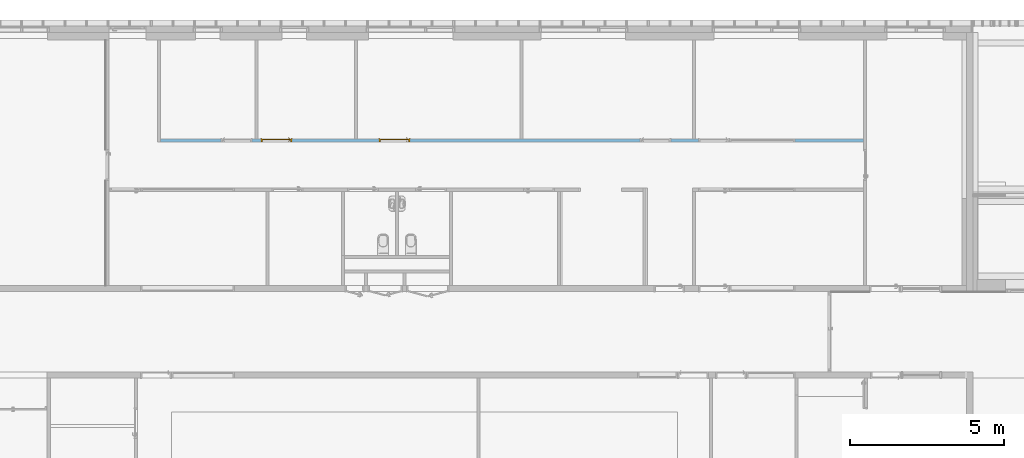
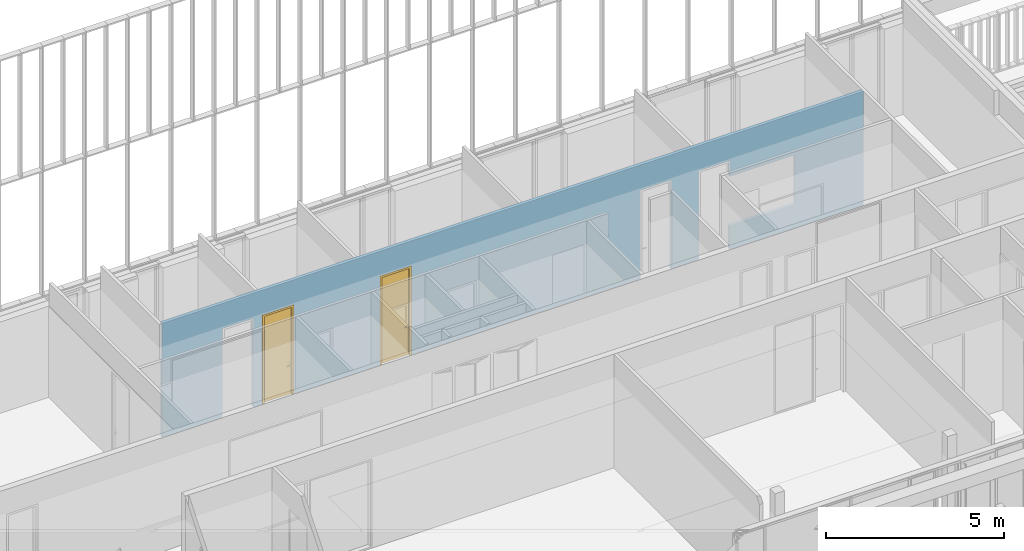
# One storey, part 153 of 240: 2 doors, 6 openings, plus 1 element that does not belong to this part.
"""IFC2X3 building model written with IfcOpenShell, lengths in centimetres."""

from ifc_helpers import new_model, entity, si_unit, converted_unit, derived_unit, direction, frame, frame_2d, origin, place, context, subcontext, project, spatial, polyline, rectangle, extrude, clip, bounded_halfspace, faceted_brep, source, transform, mapped, material, material_list, layer, layer_set, layer_usage, type_object, type_shapes, element, fill, save


model = new_model("IFC2X3")

# Units and contexts
model_context = context("Model", 3, precision=0.001, world=origin(), true_north=direction((6.12303176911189e-17, 1.0)))
body_context = subcontext(model_context, "Body", "Model", "MODEL_VIEW")
ifc_project = project(units=[si_unit("LENGTHUNIT", "METRE", prefix="CENTI"), si_unit("AREAUNIT", "SQUARE_METRE"), si_unit("VOLUMEUNIT", "CUBIC_METRE"), converted_unit("PLANEANGLEUNIT", "DEGREE", entity("IfcRatioMeasure", 0.0174532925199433), si_unit("PLANEANGLEUNIT", "RADIAN"), dimensions=[0, 0, 0, 0, 0, 0, 0]), si_unit("MASSUNIT", "GRAM", prefix="KILO"), derived_unit("MASSDENSITYUNIT", [(si_unit("MASSUNIT", "GRAM", prefix="KILO"), 1), (si_unit("LENGTHUNIT", "METRE"), -3)]), si_unit("TIMEUNIT", "SECOND"), si_unit("FREQUENCYUNIT", "HERTZ"), si_unit("THERMODYNAMICTEMPERATUREUNIT", "DEGREE_CELSIUS"), derived_unit("THERMALTRANSMITTANCEUNIT", [(si_unit("MASSUNIT", "GRAM", prefix="KILO"), 1), (si_unit("THERMODYNAMICTEMPERATUREUNIT", "KELVIN"), -1), (si_unit("TIMEUNIT", "SECOND"), -3)]), derived_unit("VOLUMETRICFLOWRATEUNIT", [(si_unit("LENGTHUNIT", "METRE"), 3), (si_unit("TIMEUNIT", "SECOND"), -1)]), si_unit("ELECTRICCURRENTUNIT", "AMPERE"), si_unit("ELECTRICVOLTAGEUNIT", "VOLT"), si_unit("POWERUNIT", "WATT"), si_unit("FORCEUNIT", "NEWTON", prefix="KILO"), si_unit("ILLUMINANCEUNIT", "LUX"), si_unit("LUMINOUSFLUXUNIT", "LUMEN"), si_unit("LUMINOUSINTENSITYUNIT", "CANDELA"), derived_unit("USERDEFINED", [(si_unit("MASSUNIT", "GRAM", prefix="KILO"), -1), (si_unit("LENGTHUNIT", "METRE"), -2), (si_unit("TIMEUNIT", "SECOND"), 3), (si_unit("LUMINOUSFLUXUNIT", "LUMEN"), 1)]), derived_unit("LINEARVELOCITYUNIT", [(si_unit("LENGTHUNIT", "METRE"), 1), (si_unit("TIMEUNIT", "SECOND"), -1)]), si_unit("PRESSUREUNIT", "PASCAL"), derived_unit("USERDEFINED", [(si_unit("LENGTHUNIT", "METRE"), -2), (si_unit("MASSUNIT", "GRAM", prefix="KILO"), 1), (si_unit("TIMEUNIT", "SECOND"), -2)])], contexts=[model_context])

# Site, building, storey
site_placement = place(None, frame((-2781.94577612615, 7442.24238424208, 0.0)))
site = spatial("IfcSite", under=ifc_project, at=site_placement, Name="Default", CompositionType="ELEMENT")
building_placement = place(site_placement, origin())
building = spatial("IfcBuilding", under=site, at=building_placement, CompositionType="ELEMENT")
storey_placement = place(building_placement, origin())
storey = spatial("IfcBuildingStorey", under=building, at=storey_placement, Name="N00 - COO", CompositionType="ELEMENT", Elevation=0.0)

# Wall, openings, doors
ifc_material_1 = material(Name="01 - Enduit/Plâtre")
ifc_layer_1 = layer(ifc_material_1, 1.3)
ifc_material_2 = material(Name="00 - Isolant")
ifc_layer_2 = layer(ifc_material_2, 7.4)
ifc_layer_3 = layer(ifc_material_1, 1.3)
ifc_layer_set = layer_set([ifc_layer_1, ifc_layer_2, ifc_layer_3], Name="Mur de base:06 - cloisons - Ba13 10cm")
ifc_layer_usage = layer_usage(ifc_layer_set, "AXIS2", "NEGATIVE", 5.0)
wall_type = type_object("IfcWallType", Name="Mur de base:06 - cloisons - Ba13 10cm", PredefinedType="STANDARD", material=ifc_layer_set)
wall_placement = place(building_placement, frame((-5122.49987760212, -340.0, 0.0), z_axis=(0.0, 0.0, 1.0), x_axis=(-1.0, 0.0, 0.0)))
wall = element("IfcWallStandardCase", 1, at=wall_placement, inside=storey, type_object=wall_type, material=ifc_layer_usage, Name="Mur de base:06 - cloisons - Ba13 10cm", ObjectType="Mur de base:06 - cloisons - Ba13 10cm", context=body_context, shape_type="Clipping", body=[
    clip(extrude(rectangle(XDim=2276.75, YDim=10.0, at=frame_2d((1138.375, -3.5527136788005e-15), x_axis=(-1.0, 0.0))), origin(), (0.0, 0.0, 1.0), 391.0), bounded_halfspace(frame((0.0, -5.0, 391.0), z_axis=(0.0, 0.0, -1.0), x_axis=(0.0, -1.0, 0.0)), True, frame((0.0, -5.0, 391.0)), polyline([(0.0, 0.0), (544.0, 0.0), (554.0, 0.0), (1103.0, 0.0), (1113.0, 0.0), (1639.0, 0.0), (1649.0, 0.0), (1961.0, 0.0), (1971.0, 0.0), (2276.75, 0.0), (2276.75, 10.0), (0.0, 10.0), (0.0, 0.0)]))),
])
opening_1_placement = place(wall_placement, frame((2081.0, 5.0, 0.0)))
element("IfcOpeningElement", 2, at=opening_1_placement, cuts=wall, Name="Int. Simple:PV (0.93m x 3.00m):1", ObjectType="Opening", context=body_context, shape_type="SweptSolid", body=[
    extrude(rectangle(XDim=304.500000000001, YDim=99.9999999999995, at=frame_2d((152.250000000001, 49.9999999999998), x_axis=(1.0, 0.0))), frame((0.0, 0.0, 0.0), z_axis=(0.0, -1.0, 0.0), x_axis=(0.0, 0.0, 1.0)), (0.0, 0.0, 1.0), 10.0),
])
opening_2_placement = place(wall_placement, frame((1951.0, 5.0, 0.0)))
opening_2 = element("IfcOpeningElement", 3, at=opening_2_placement, cuts=wall, Name="Int. Simple:PV (0.93m x 3.00m):1", ObjectType="Opening", context=body_context, shape_type="SweptSolid", body=[
    extrude(rectangle(XDim=304.500000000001, YDim=99.9999999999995, at=frame_2d((152.250000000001, 50.0), x_axis=(1.0, 0.0))), frame((0.0, 0.0, 0.0), z_axis=(0.0, -1.0, 0.0), x_axis=(0.0, 0.0, 1.0)), (0.0, 0.0, 1.0), 10.0),
])
opening_3_placement = place(wall_placement, frame((1569.0, 5.0, 0.0)))
opening_3 = element("IfcOpeningElement", 4, at=opening_3_placement, cuts=wall, Name="Int. Simple:PV (0.93m x 3.00m):1", ObjectType="Opening", context=body_context, shape_type="SweptSolid", body=[
    extrude(rectangle(XDim=304.500000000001, YDim=99.9999999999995, at=frame_2d((152.250000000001, 50.0), x_axis=(1.0, 0.0))), frame((0.0, 0.0, 0.0), z_axis=(0.0, -1.0, 0.0), x_axis=(0.0, 0.0, 1.0)), (0.0, 0.0, 1.0), 10.0),
])
opening_4_placement = place(wall_placement, frame((724.0, 5.0, 0.0)))
element("IfcOpeningElement", 5, at=opening_4_placement, cuts=wall, Name="Int. Simple:PV (0.93m x 3.00m):1", ObjectType="Opening", context=body_context, shape_type="SweptSolid", body=[
    extrude(rectangle(XDim=304.500000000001, YDim=99.9999999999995, at=frame_2d((152.250000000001, 49.9999999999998), x_axis=(1.0, 0.0))), frame((0.0, 0.0, 0.0), z_axis=(0.0, -1.0, 0.0), x_axis=(0.0, 0.0, 1.0)), (0.0, 0.0, 1.0), 10.0),
])
opening_5_placement = place(wall_placement, frame((534.0, 5.0, 0.0)))
element("IfcOpeningElement", 6, at=opening_5_placement, cuts=wall, Name="Int. Simple:PV (0.93m x 3.00m):1", ObjectType="Opening", context=body_context, shape_type="SweptSolid", body=[
    extrude(rectangle(XDim=304.500000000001, YDim=99.9999999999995, at=frame_2d((152.250000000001, 50.0), x_axis=(1.0, 0.0))), frame((0.0, 0.0, 0.0), z_axis=(0.0, -1.0, 0.0), x_axis=(0.0, 0.0, 1.0)), (0.0, 0.0, 1.0), 10.0),
])
opening_6_placement = place(wall_placement, frame((222.0, -5.0, 80.0)))
element("IfcOpeningElement", 7, at=opening_6_placement, cuts=wall, Name="châssis intérieur vitré:châssis intérieur vitré (h=170):1", ObjectType="Opening", context=body_context, shape_type="SweptSolid", body=[
    extrude(rectangle(XDim=170.0, YDim=211.999999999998, at=frame_2d((84.9999999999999, 105.999999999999), x_axis=(1.0, 0.0))), frame((0.0, 0.0, 0.0), z_axis=(0.0, 1.0, 0.0), x_axis=(0.0, 0.0, 1.0)), (0.0, 0.0, 1.0), 10.0),
])
ifc_material_3 = material(Name="Finition Peinture - Blanc satiné")
ifc_material_4 = material(Name="Bois - Panneau de porte")
ifc_material_5 = material(Name="Bois - Cadre de porte")
ifc_material_list_1 = material_list([ifc_material_3, ifc_material_4, ifc_material_5])
ifc_material_list_2 = material_list([ifc_material_3, ifc_material_4, ifc_material_5])
door_style = type_object("IfcDoorStyle", Name="PV (0.93m x 3.00m)", ConstructionType="NOTDEFINED", OperationType="SINGLE_SWING_LEFT", ParameterTakesPrecedence=False, Sizeable=False, material=ifc_material_list_2)
shared_shape = source(origin(), body_context, "Body", "Brep", [
    faceted_brep([(10.5352761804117, -0.500000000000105, 86.6003983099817), (11.5000000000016, -0.500000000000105, 87.0), (11.5000000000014, -0.500000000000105, 108.0), (10.5352761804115, -0.500000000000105, 108.399601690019), (9.50000000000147, -0.500000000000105, 108.535898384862), (8.46472381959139, -0.500000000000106, 108.399601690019), (7.50000000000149, -0.500000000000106, 108.0), (7.50000000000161, -0.500000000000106, 87.0), (8.46472381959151, -0.500000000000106, 86.6003983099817), (9.50000000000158, -0.500000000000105, 86.464101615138), (10.5352761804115, 0.0, 108.399601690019), (11.5000000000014, 0.0, 108.0), (11.5000000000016, 0.0, 87.0), (10.5352761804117, 0.0, 86.6003983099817), (9.50000000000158, 0.0, 86.464101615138), (8.46472381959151, 0.0, 86.6003983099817), (7.50000000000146, 0.0, 87.0), (7.50000000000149, 0.0, 108.0), (8.46472381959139, 0.0, 108.399601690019), (9.50000000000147, 0.0, 108.535898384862)], [[[0, 1, 2, 3, 4, 5, 6, 7, 8, 9]], [[10, 11, 12, 13, 14, 15, 16, 17, 18, 19]], [[16, 15, 8, 7]], [[8, 15, 14, 9]], [[14, 13, 0, 9]], [[13, 12, 1, 0]], [[2, 1, 12, 11]], [[11, 10, 3, 2]], [[3, 10, 19, 4]], [[19, 18, 5, 4]], [[18, 17, 6, 5]], [[7, 6, 17, 16]]]),
    faceted_brep([(10.5352761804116, 4.0, 86.6003983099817), (11.5000000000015, 4.0, 87.0), (11.5000000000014, 4.0, 108.0), (10.5352761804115, 4.0, 108.399601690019), (9.50000000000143, 4.0, 108.535898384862), (8.46472381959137, 4.0, 108.399601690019), (7.50000000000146, 4.0, 108.0), (7.50000000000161, 4.0, 87.0), (8.46472381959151, 4.0, 86.6003983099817), (9.50000000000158, 4.0, 86.464101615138), (10.5352761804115, 4.49999999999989, 108.399601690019), (11.5000000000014, 4.49999999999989, 108.0), (11.5000000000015, 4.49999999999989, 87.0), (10.5352761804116, 4.49999999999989, 86.6003983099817), (9.50000000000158, 4.49999999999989, 86.464101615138), (8.46472381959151, 4.49999999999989, 86.6003983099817), (7.50000000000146, 4.49999999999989, 87.0), (7.50000000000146, 4.49999999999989, 108.0), (8.46472381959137, 4.49999999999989, 108.399601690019), (9.50000000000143, 4.49999999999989, 108.535898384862)], [[[0, 1, 2, 3, 4, 5, 6, 7, 8, 9]], [[10, 11, 12, 13, 14, 15, 16, 17, 18, 19]], [[11, 10, 3, 2]], [[3, 10, 19, 4]], [[19, 18, 5, 4]], [[18, 17, 6, 5]], [[7, 6, 17, 16]], [[16, 15, 8, 7]], [[8, 15, 14, 9]], [[14, 13, 0, 9]], [[13, 12, 1, 0]], [[2, 1, 12, 11]]]),
    faceted_brep([(9.29747013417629, -0.500000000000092, 100.778044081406), (9.70252986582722, -0.50000000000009, 100.778044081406), (10.1000000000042, -0.500000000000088, 100.699999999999), (10.1000000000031, -0.500000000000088, 99.3000000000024), (9.7025298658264, -0.50000000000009, 99.2219559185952), (9.29747013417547, -0.500000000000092, 99.221955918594), (8.8999999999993, -0.500000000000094, 99.2999999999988), (8.89999999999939, -0.500000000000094, 100.7), (8.89999999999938, -3.26509507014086, 100.7), (9.29747013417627, -3.10045754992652, 100.778044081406), (10.9023585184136, -4.70534593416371, 100.778044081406), (11.0701397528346, -4.30028620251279, 100.778044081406), (9.7025298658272, -2.93267631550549, 100.778044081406), (10.1000000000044, -2.76803879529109, 100.7), (10.1000000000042, -2.76803879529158, 99.3000000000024), (9.7025298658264, -2.93267631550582, 99.2219559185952), (11.0701397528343, -4.30028620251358, 99.2219559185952), (10.9023585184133, -4.70534593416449, 99.221955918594), (9.29747013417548, -3.10045754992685, 99.221955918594), (8.89999999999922, -3.26509507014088, 99.2999999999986), (10.7377209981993, -5.10281606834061, 100.7), (11.2347772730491, -3.90281606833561, 100.7), (11.2347772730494, -3.90281606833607, 99.3000000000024), (10.7377209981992, -5.10281606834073, 99.2999999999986), (19.5018640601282, -5.10281606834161, 99.2999999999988), (19.5018640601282, -4.70534593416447, 99.221955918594), (19.5018640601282, -4.30028620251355, 99.2219559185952), (19.5018640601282, -3.9028160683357, 99.3000000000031), (19.5018640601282, -3.90281606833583, 100.7), (19.5018640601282, -4.30028620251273, 100.778044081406), (19.5018640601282, -4.70534593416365, 100.778044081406), (19.5018640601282, -5.10281606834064, 100.699999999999), (14.7307697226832, -5.10281606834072, 100.7), (15.2860019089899, -4.5028160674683, 100.78786867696), (15.3683206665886, -3.9028160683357, 100.7), (15.3683206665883, -3.9028160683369, 99.3000000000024), (15.2860018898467, -4.50281607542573, 99.2121313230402), (14.7307700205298, -5.10281606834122, 99.2999999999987)], [[[0, 1, 2, 3, 4, 5, 6, 7]], [[8, 9, 0, 7]], [[9, 10, 11, 12, 1, 0]], [[12, 13, 2, 1]], [[3, 2, 13, 14]], [[14, 15, 4, 3]], [[15, 16, 17, 18, 5, 4]], [[18, 19, 6, 5]], [[7, 6, 19, 8]], [[20, 10, 9, 8]], [[11, 21, 13, 12]], [[14, 13, 21, 22]], [[22, 16, 15, 14]], [[17, 23, 19, 18]], [[8, 19, 23, 20]], [[24, 25, 26, 27, 28, 29, 30, 31]], [[32, 30, 33]], [[31, 30, 32]], [[10, 20, 32]], [[33, 34, 11]], [[21, 11, 34]], [[34, 29, 28]], [[30, 29, 33]], [[29, 34, 33]], [[10, 32, 33]], [[10, 33, 11]], [[22, 21, 34, 28, 27, 35]], [[35, 26, 36]], [[37, 36, 25]], [[22, 35, 16]], [[35, 27, 26]], [[24, 37, 25]], [[23, 17, 37]], [[37, 17, 36]], [[17, 16, 36]], [[16, 35, 36]], [[25, 36, 26]], [[20, 23, 37, 24, 31, 32]]]),
    faceted_brep([(9.29747013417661, 4.49999999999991, 100.778044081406), (8.89999999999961, 4.4999999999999, 100.7), (8.89999999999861, 4.4999999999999, 99.2999999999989), (9.29747013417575, 4.49999999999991, 99.221955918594), (9.70252986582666, 4.49999999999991, 99.2219559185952), (10.1000000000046, 4.49999999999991, 99.3000000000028), (10.1000000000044, 4.49999999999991, 100.7), (9.70252986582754, 4.49999999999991, 100.778044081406), (10.1000000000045, 6.7485204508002, 99.3000000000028), (10.1000000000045, 6.74852045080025, 100.7), (9.70252986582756, 6.91315797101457, 100.778044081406), (11.083890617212, 8.29451872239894, 100.778044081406), (10.916109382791, 8.69957845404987, 100.778044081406), (9.29747013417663, 7.0809392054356, 100.778044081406), (8.89999999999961, 7.24557672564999, 100.7), (8.89999999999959, 7.2455767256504, 99.2999999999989), (9.29747013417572, 7.08093920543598, 99.221955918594), (10.9161093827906, 8.69957845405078, 99.221955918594), (11.0838906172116, 8.29451872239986, 99.2219559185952), (9.70252986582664, 6.91315797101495, 99.2219559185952), (11.2485281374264, 7.89704858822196, 99.3000000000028), (11.2485281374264, 7.89704858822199, 100.7), (10.7514718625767, 9.09704858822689, 100.7), (10.7514718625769, 9.0970485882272, 99.2999999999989), (19.5045783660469, 7.89704858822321, 99.3000000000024), (19.5045783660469, 8.29451872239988, 99.2219559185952), (19.5045783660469, 8.6995784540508, 99.221955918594), (19.5045783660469, 9.09704858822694, 99.2999999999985), (19.5045783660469, 9.09704858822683, 100.7), (19.5045783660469, 8.69957845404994, 100.778044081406), (19.5045783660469, 8.29451872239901, 100.778044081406), (19.5045783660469, 7.89704858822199, 100.7), (15.3765520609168, 7.89704858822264, 99.3000000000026), (15.3765532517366, 7.89704858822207, 100.7), (15.294234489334, 8.49704858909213, 100.78786867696), (14.7445205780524, 9.09704858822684, 100.7), (14.7445204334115, 9.09704858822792, 99.2999999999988), (15.2942345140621, 8.49704858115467, 99.2121313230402)], [[[0, 1, 2, 3, 4, 5, 6, 7]], [[6, 5, 8, 9]], [[9, 10, 7, 6]], [[10, 11, 12, 13, 0, 7]], [[13, 14, 1, 0]], [[2, 1, 14, 15]], [[15, 16, 3, 2]], [[16, 17, 18, 19, 4, 3]], [[19, 8, 5, 4]], [[9, 8, 20, 21]], [[21, 11, 10, 9]], [[12, 22, 14, 13]], [[15, 14, 22, 23]], [[23, 17, 16, 15]], [[18, 20, 8, 19]], [[24, 25, 26, 27, 28, 29, 30, 31]], [[21, 20, 32, 24, 31, 33]], [[33, 30, 34]], [[35, 34, 29]], [[21, 33, 11]], [[33, 31, 30]], [[28, 35, 29]], [[22, 12, 35]], [[35, 12, 34]], [[12, 11, 34]], [[11, 33, 34]], [[29, 34, 30]], [[22, 35, 28, 27, 36, 23]], [[36, 26, 37]], [[27, 26, 36]], [[17, 23, 36]], [[37, 32, 18]], [[20, 18, 32]], [[32, 25, 24]], [[26, 25, 37]], [[25, 32, 37]], [[17, 36, 37]], [[17, 37, 18]]]),
    faceted_brep([(3.50000000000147, 4.0, 301.0), (96.5000000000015, 4.0, 301.0), (96.5000000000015, 4.0, 0.0), (3.50000000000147, 4.0, 0.0), (3.50000000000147, 0.0, 301.0), (3.50000000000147, 0.0, 0.0), (96.5000000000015, 0.0, 0.0), (96.5000000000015, 0.0, 301.0)], [[[0, 1, 2, 3]], [[4, 5, 6, 7]], [[1, 0, 4, 7]], [[2, 1, 7, 6]], [[3, 2, 6, 5]], [[0, 3, 5, 4]]]),
    faceted_brep([(0.0, 10.0, 0.0), (-1.50000000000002, 10.0, 0.0), (-1.50000000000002, 10.5000000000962, 0.0), (5.0, 10.5000000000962, 0.0), (5.0, 4.0, 0.0), (3.50000000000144, 4.0, 0.0), (3.50000000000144, -0.500000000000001, 0.0), (-1.50000000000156, -0.500000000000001, 0.0), (-1.50000000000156, 0.0, 0.0), (0.0, 0.0, 0.0), (0.0, 10.0, 304.500000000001), (100.0, 10.0, 304.500000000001), (100.0, 10.0, 0.0), (101.5, 10.0, 0.0), (101.5, 10.0, 306.0), (-1.50000000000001, 10.0, 306.0), (-1.50000000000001, 10.5000000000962, 306.0), (101.5, 10.5000000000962, 306.0), (101.5, 10.5000000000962, 0.0), (95.0, 10.5000000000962, 0.0), (95.0, 10.5000000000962, 299.5), (5.0, 10.5000000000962, 299.5), (5.0, 4.0, 299.5), (95.0, 4.0, 299.5), (95.0, 4.0, 0.0), (96.4999999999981, 4.0, 0.0), (96.4999999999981, 4.0, 301.0), (3.50000000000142, 4.0, 301.0), (3.50000000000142, -0.500000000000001, 301.0), (96.4999999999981, -0.500000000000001, 301.0), (96.4999999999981, -0.500000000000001, 0.0), (101.500000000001, -0.500000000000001, 0.0), (101.500000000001, -0.500000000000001, 306.0), (-1.50000000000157, -0.500000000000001, 306.0), (-1.50000000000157, 0.0, 306.0), (101.500000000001, 0.0, 306.0), (101.500000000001, 0.0, 0.0), (100.0, 0.0, 0.0), (100.0, 0.0, 304.500000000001), (0.0, 0.0, 304.500000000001)], [[[0, 1, 2, 3, 4, 5, 6, 7, 8, 9]], [[1, 0, 10, 11, 12, 13, 14, 15]], [[2, 1, 15, 16]], [[3, 2, 16, 17, 18, 19, 20, 21]], [[3, 21, 22, 4]], [[5, 4, 22, 23, 24, 25, 26, 27]], [[5, 27, 28, 6]], [[7, 6, 28, 29, 30, 31, 32, 33]], [[8, 7, 33, 34]], [[9, 8, 34, 35, 36, 37, 38, 39]], [[0, 9, 39, 10]], [[11, 38, 37, 12]], [[12, 37, 36, 31, 30, 25, 24, 19, 18, 13]], [[17, 14, 13, 18]], [[23, 20, 19, 24]], [[29, 26, 25, 30]], [[35, 32, 31, 36]], [[10, 39, 38, 11]], [[16, 15, 14, 17]], [[22, 21, 20, 23]], [[28, 27, 26, 29]], [[34, 33, 32, 35]]]),
])
type_shapes(door_style, [shared_shape])
door_1_placement = place(opening_2_placement, frame((-100.0, -10.0, 0.0)))
door_1 = element("IfcDoor", 8, at=door_1_placement, inside=storey, type_object=door_style, material=ifc_material_list_1, Name="Int. Simple:PV (0.93m x 3.00m)", ObjectType="Int. Simple:PV (0.93m x 3.00m)", OverallHeight=304.500000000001, OverallWidth=99.9999999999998, context=body_context, shape_type="MappedRepresentation", body=[
    mapped(shared_shape, transform((0.0, 0.0, 0.0), scale=1.0)),
])
fill(opening_2, door_1)
ifc_material_list_3 = material_list([ifc_material_3, ifc_material_4, ifc_material_5])
door_2_placement = place(opening_3_placement, frame((-100.0, -10.0, 0.0)))
door_2 = element("IfcDoor", 9, at=door_2_placement, inside=storey, type_object=door_style, material=ifc_material_list_3, Name="Int. Simple:PV (0.93m x 3.00m)", ObjectType="Int. Simple:PV (0.93m x 3.00m)", OverallHeight=304.500000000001, OverallWidth=99.9999999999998, context=body_context, shape_type="MappedRepresentation", body=[
    mapped(shared_shape, transform((0.0, 0.0, 0.0), scale=1.0)),
])
fill(opening_3, door_2)

save(model, "model.ifc")
